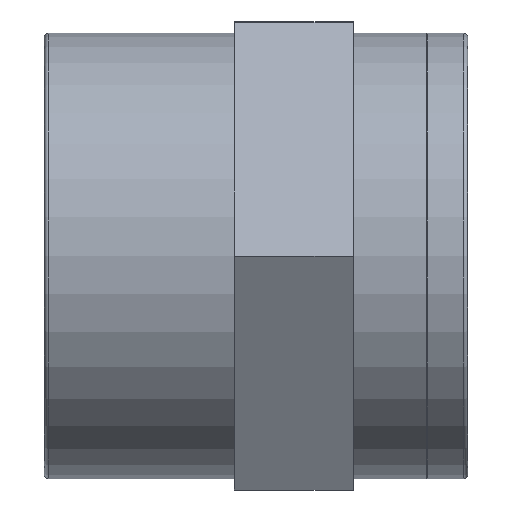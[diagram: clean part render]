
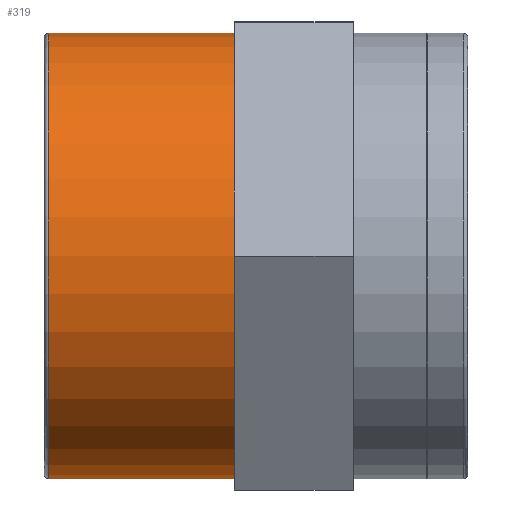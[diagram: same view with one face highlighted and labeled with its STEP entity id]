
A CAD part, top view. The second image highlights one B-rep face of the part: STEP entity #319.
In plain terms, the highlighted cylindrical face has radius 30 mm (diameter 60 mm), a full revolution.
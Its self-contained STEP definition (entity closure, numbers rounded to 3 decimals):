
#56=CYLINDRICAL_SURFACE('',#356,30.);
#80=FACE_BOUND('',#132,.T.);
#98=FACE_OUTER_BOUND('',#131,.T.);
#131=EDGE_LOOP('',(#254));
#132=EDGE_LOOP('',(#255));
#165=CIRCLE('',#355,30.);
#166=CIRCLE('',#357,30.);
#182=VERTEX_POINT('',#509);
#183=VERTEX_POINT('',#512);
#211=EDGE_CURVE('',#182,#182,#165,.T.);
#212=EDGE_CURVE('',#183,#183,#166,.T.);
#254=ORIENTED_EDGE('',*,*,#212,.T.);
#255=ORIENTED_EDGE('',*,*,#211,.F.);
#319=ADVANCED_FACE('',(#98,#80),#56,.T.);
#355=AXIS2_PLACEMENT_3D('',#510,#417,#418);
#356=AXIS2_PLACEMENT_3D('',#511,#419,#420);
#357=AXIS2_PLACEMENT_3D('',#513,#421,#422);
#417=DIRECTION('center_axis',(-1.,0.,0.));
#418=DIRECTION('ref_axis',(0.,1.,0.));
#419=DIRECTION('center_axis',(-1.,0.,0.));
#420=DIRECTION('ref_axis',(0.,-1.,0.));
#421=DIRECTION('center_axis',(-1.,0.,0.));
#422=DIRECTION('ref_axis',(0.,0.,1.));
#509=CARTESIAN_POINT('',(-28.,-30.,0.));
#510=CARTESIAN_POINT('Origin',(-28.,0.,0.));
#511=CARTESIAN_POINT('Origin',(-15.7,0.,0.));
#512=CARTESIAN_POINT('',(-2.9,-30.,0.));
#513=CARTESIAN_POINT('Origin',(-2.9,0.,0.));
